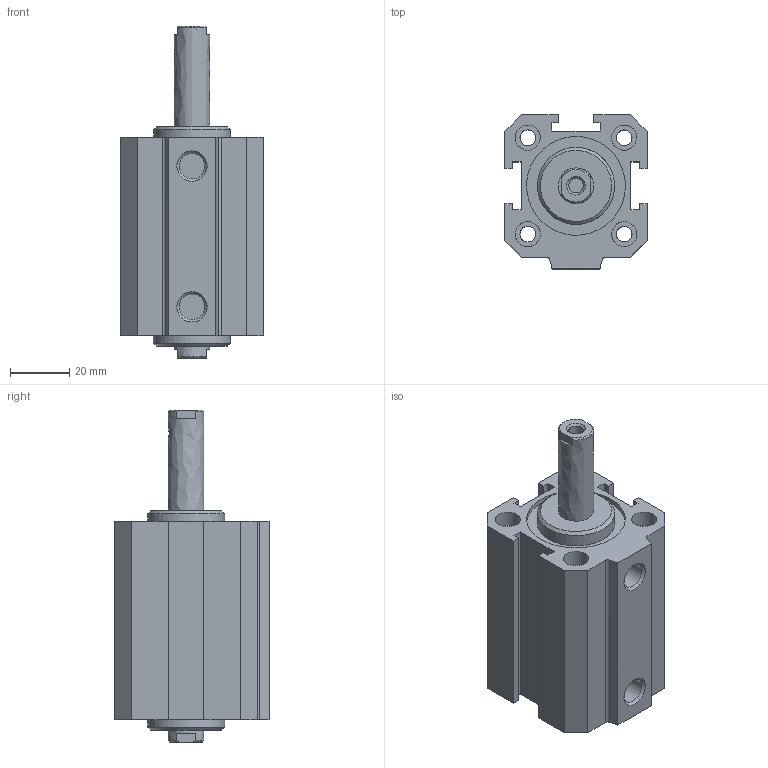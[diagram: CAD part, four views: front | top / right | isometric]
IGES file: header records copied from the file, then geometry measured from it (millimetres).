
Global section: file name: 1514_32_0030; native system: Autodesk Inventor 2014; preprocessor: unknown; author: A. Manieri; date: 20160824.113526; units: millimetre
Bounding box: 48 x 52 x 112 mm (x, y, z)
Volume: 116073.6 mm3; surface area: 40474.8 mm2
Topology: 2 solids, 2 shells, 106 faces, 276 edges, 194 vertices
Faces by surface type: bspline 106
